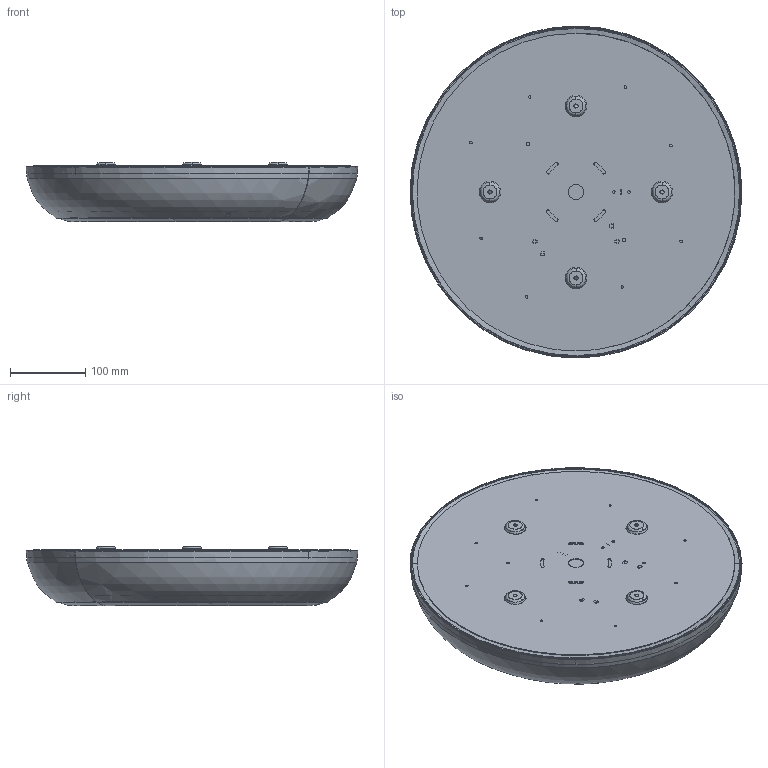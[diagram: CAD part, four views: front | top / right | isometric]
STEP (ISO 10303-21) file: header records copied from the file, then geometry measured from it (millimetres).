
FILE_DESCRIPTION(/* description */ (''),/* implementation_level */ '2;1');
FILE_NAME(/* name */ 'Superbold P088__.045',/* time_stamp */ '2025-05-26T17:12:33+02:00',/* author */ (''),/* organization */ (''),/* preprocessor_version */ 'ST-DEVELOPER v16.5',/* originating_system */ '',/* authorisation */ '');
FILE_SCHEMA (('AUTOMOTIVE_DESIGN'));
Length unit declared in the file: millimetre
Products named in the file (7): Document; 3200.0820000.00 (corpo principale tornito ACC H 68,4mm sp 1 con viti)
_3210.0820044.00; headless studs for stud welding gb_GB_CONNECTING_PIECE_RIVET_HSSW 4X8; 3200.0819000.00 (corpo principale tornito ACC Ø440mm H 68,4mm sp 
1)_3202.0819044.00; 3100.0117000.00 (diffusore circolare PMMA Ø 360mm H 43mm)_3104.01
17038.98; 3300.0520000.00 (piastra di fissaggio a muro circolare ALL Ø 421m
m sp 1,2)_3309.0520000.00 - in opera 1; 3100.0123000.00 (profilo adesivo EPDM Kronstik 14X12mm)_3101.0123004.
00
Assembly tree (9 placements, depth 3):
  Document
    3200.0820000.00 (corpo principale tornito ACC H 68,4mm sp 1 con viti)
_3210.0820044.00
      headless studs for stud welding gb_GB_CONNECTING_PIECE_RIVET_HSSW 4X8  x4
      3200.0819000.00 (corpo principale tornito ACC Ø440mm H 68,4mm sp 
1)_3202.0819044.00
    3100.0117000.00 (diffusore circolare PMMA Ø 360mm H 43mm)_3104.01
17038.98
    3300.0520000.00 (piastra di fissaggio a muro circolare ALL Ø 421m
m sp 1,2)_3309.0520000.00 - in opera 1
    3100.0123000.00 (profilo adesivo EPDM Kronstik 14X12mm)_3101.0123004.
00
Bounding box: 440 x 439.93 x 78.4 mm (x, y, z)
Volume: 879754.6 mm3; surface area: 876553.7 mm2
Topology: 9 solids, 9 shells, 396 faces, 1007 edges, 640 vertices
Faces by surface type: bspline 263, plane 133
Entity records: 16517 total; most frequent: CARTESIAN_POINT 10812, ORIENTED_EDGE 1870, EDGE_CURVE 935, VERTEX_POINT 598, B_SPLINE_CURVE_WITH_KNOTS 477, EDGE_LOOP 431, ADVANCED_FACE 357, FACE_OUTER_BOUND 357
